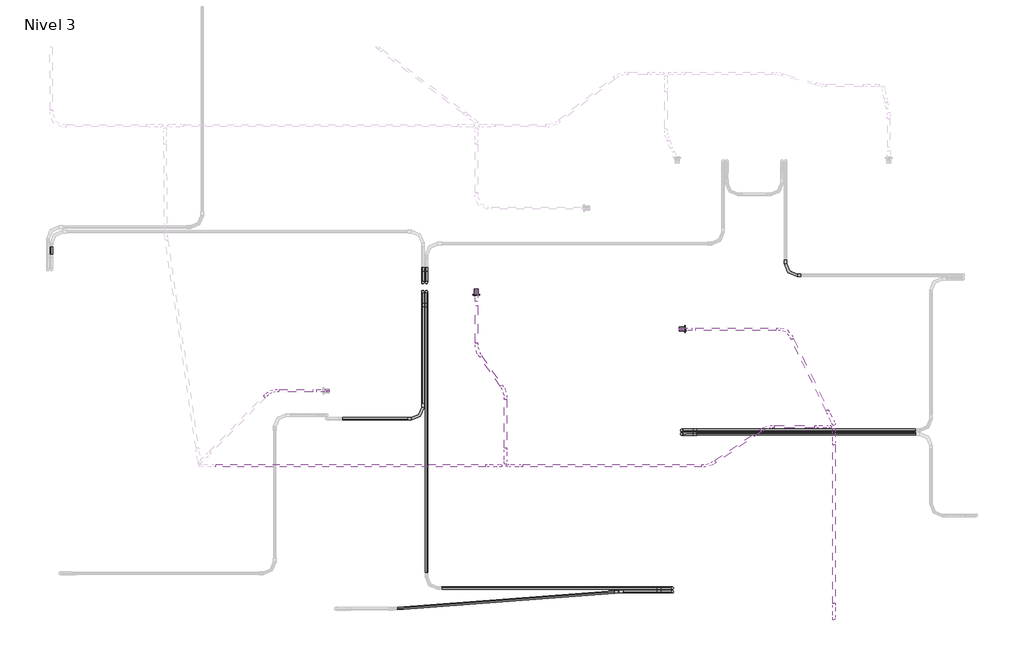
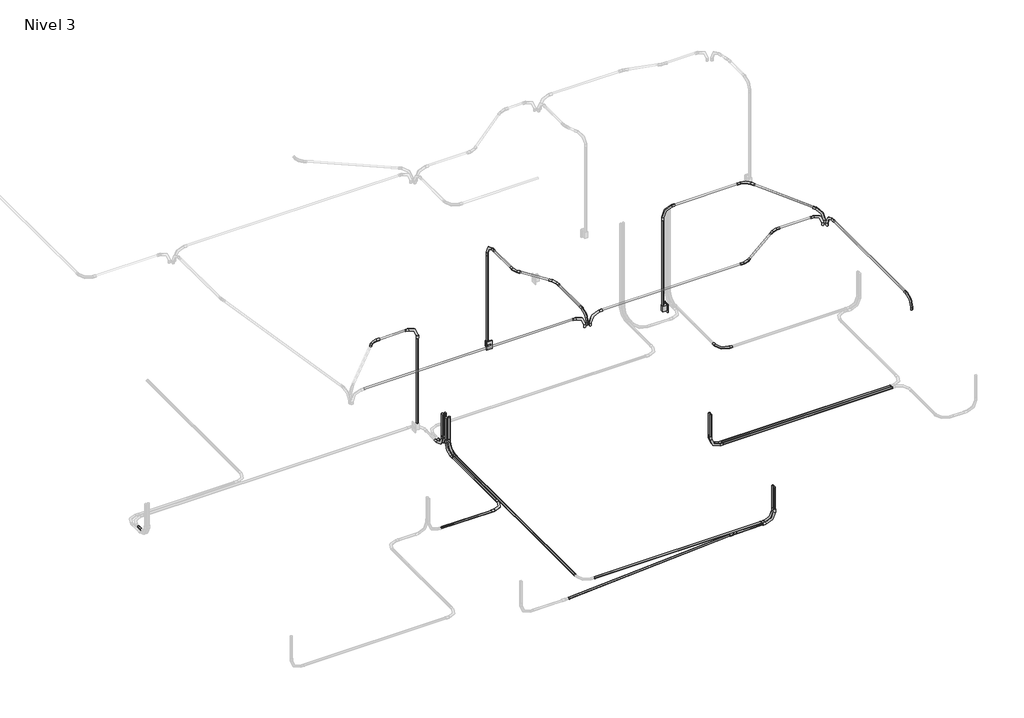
# One storey, part 2 of 9: 31 cable carrier segments, 27 cable carrier fittings, 2 switching devices.
"""IFC4 building model written with IfcOpenShell, lengths in millimetres."""

from ifc_helpers import new_model, si_unit, point, frame, frame_2d, origin, place, context, project, spatial, circle_curve, trimmed, segment, composite_curve, outline, extrude, transform, mapped, element, save
from components import m_codo_de_tubo_extremo_liso_pvc_9da73e12, m_codo_de_tubo_extremo_liso_pvc_e945fc89, m_codo_de_tubo_extremo_liso_pvc_102f0f41, m_codo_de_tubo_extremo_liso_pvc_6d9fa8a7, m_codo_de_tubo_extremo_liso_pvc_f58f4af8, m_codo_de_tubo_extremo_liso_pvc_1309d5ab, m_codo_de_tubo_extremo_liso_pvc_280a536f, m_codo_de_tubo_extremo_liso_pvc_f7d6bdcc, switching_device_22fed34b

model = new_model("IFC4")

# Units and contexts
model_context = context("Model", 3, world=origin())
ifc_project = project(units=[si_unit("LENGTHUNIT", "METRE", prefix="MILLI")], contexts=[model_context])

# Site, building, storey
site = spatial("IfcSite", under=ifc_project)
building = spatial("IfcBuilding", under=site)
storey = spatial("IfcBuildingStorey", under=building, Name="Nivel 3", Elevation=5450.0)

# Cable carrier fittings
placement = place(None, origin())
m_codo_de_tubo_extremo_liso_pvc_shape = m_codo_de_tubo_extremo_liso_pvc_9da73e12(model_context)
element("IfcCableCarrierFitting", 1, ObjectType="M_Codo de tubo - Extremo liso - PVC : CODO POTENCIA", at=placement, inside=storey, context=model_context, shape_type="MappedRepresentation", body=[
    mapped(m_codo_de_tubo_extremo_liso_pvc_shape, transform((6305.3628882, 2344.5282763, 5380.0), x_axis=(0.0, 0.0, -1.0), y_axis=(1.0, 0.0, 0.0), z_axis=(0.0, -1.0, 0.0))),
])
element("IfcCableCarrierFitting", 2, ObjectType="M_Codo de tubo - Extremo liso - PVC : CODO POTENCIA", at=placement, inside=storey, context=model_context, shape_type="MappedRepresentation", body=[
    mapped(m_codo_de_tubo_extremo_liso_pvc_shape, transform((6305.3628882, 2380.5919159, 5380.0), x_axis=(0.0, 0.0, -1.0), y_axis=(1.0, 0.0, 0.0), z_axis=(0.0, -1.0, 0.0))),
])
element("IfcCableCarrierFitting", 3, ObjectType="M_Codo de tubo - Extremo liso - PVC : CODO POTENCIA", at=placement, inside=storey, context=model_context, shape_type="MappedRepresentation", body=[
    mapped(m_codo_de_tubo_extremo_liso_pvc_shape, transform((7343.1290455, 3929.8436623, 5380.0), x_axis=(0.0, -1.0, 0.0), y_axis=(1.0, 0.0, 0.0), z_axis=(0.0, 0.0, 1.0))),
])
element("IfcCableCarrierFitting", 4, ObjectType="M_Codo de tubo - Extremo liso - PVC : CODO POTENCIA", at=placement, inside=storey, context=model_context, shape_type="MappedRepresentation", body=[
    mapped(m_codo_de_tubo_extremo_liso_pvc_shape, transform((3759.3670122, 3855.3628882, 5380.0), x_axis=(0.0, 0.0, -1.0), y_axis=(0.0, 1.0, 0.0), z_axis=(1.0, 0.0, 0.0))),
])
element("IfcCableCarrierFitting", 5, ObjectType="M_Codo de tubo - Extremo liso - PVC : CODO POTENCIA", at=placement, inside=storey, context=model_context, shape_type="MappedRepresentation", body=[
    mapped(m_codo_de_tubo_extremo_liso_pvc_shape, transform((3723.3033726, 3855.3628882, 5380.0), x_axis=(0.0, 0.0, -1.0), y_axis=(0.0, 1.0, 0.0), z_axis=(1.0, 0.0, 0.0))),
])
element("IfcCableCarrierFitting", 6, ObjectType="M_Codo de tubo - Extremo liso - PVC : CODO POTENCIA", at=placement, inside=storey, context=model_context, shape_type="MappedRepresentation", body=[
    mapped(m_codo_de_tubo_extremo_liso_pvc_shape, transform((3759.7333421, 3764.6371118, 5380.0), x_axis=(0.0, 0.0, -1.0), y_axis=(0.0, -1.0, 0.0), z_axis=(-1.0, 0.0, 0.0))),
])
element("IfcCableCarrierFitting", 7, ObjectType="M_Codo de tubo - Extremo liso - PVC : CODO POTENCIA", at=placement, inside=storey, context=model_context, shape_type="MappedRepresentation", body=[
    mapped(m_codo_de_tubo_extremo_liso_pvc_shape, transform((3723.6697024, 3764.6371118, 5380.0), x_axis=(0.0, 0.0, -1.0), y_axis=(0.0, -1.0, 0.0), z_axis=(-1.0, 0.0, 0.0))),
])
element("IfcCableCarrierFitting", 8, ObjectType="M_Codo de tubo - Extremo liso - PVC : CODO POTENCIA", at=placement, inside=storey, context=model_context, shape_type="MappedRepresentation", body=[
    mapped(m_codo_de_tubo_extremo_liso_pvc_shape, transform((6214.6371118, 769.0018593, 5380.0), x_axis=(0.0, 0.0, -1.0), y_axis=(-1.0, 0.0, 0.0), z_axis=(0.0, 1.0, 0.0))),
])
element("IfcCableCarrierFitting", 9, ObjectType="M_Codo de tubo - Extremo liso - PVC : CODO POTENCIA", at=placement, inside=storey, context=model_context, shape_type="MappedRepresentation", body=[
    mapped(m_codo_de_tubo_extremo_liso_pvc_shape, transform((6214.6371118, 805.065499, 5380.0), x_axis=(0.0, 0.0, -1.0), y_axis=(-1.0, 0.0, 0.0), z_axis=(0.0, 1.0, 0.0))),
])
element("IfcCableCarrierFitting", 10, ObjectType="M_Codo de tubo - Extremo liso - PVC : CODO POTENCIA", at=placement, inside=storey, context=model_context, shape_type="MappedRepresentation", body=[
    mapped(m_codo_de_tubo_extremo_liso_pvc_shape, transform((3723.6697024, 2496.1320383, 5380.0), x_axis=(1.0, 0.0, 0.0), y_axis=(0.0, 1.0, 0.0), z_axis=(0.0, 0.0, 1.0))),
])
m_codo_de_tubo_extremo_liso_pvc_2_shape = m_codo_de_tubo_extremo_liso_pvc_e945fc89(model_context)
element("IfcCableCarrierFitting", 11, ObjectType="M_Codo de tubo - Extremo liso - PVC : CODO POTENCIA", at=placement, inside=storey, context=model_context, shape_type="MappedRepresentation", body=[
    mapped(m_codo_de_tubo_extremo_liso_pvc_2_shape, transform((5679.6371118, 769.0018593, 5380.0), x_axis=(-1.0, 0.0, 0.0), y_axis=(0.0, -1.0, 0.0), z_axis=(0.0, 0.0, 1.0))),
])
element("IfcCableCarrierFitting", 12, ObjectType="M_Codo de tubo - Extremo liso - PVC : CODO ILUMINACION", at=placement, inside=storey, context=model_context, shape_type="MappedRepresentation", body=[
    mapped(m_codo_de_tubo_extremo_liso_pvc_shape, transform((4568.8526659, 2026.1291573, 8000.0), x_axis=(-1.0, 0.0, 0.0), y_axis=(0.0, 0.0, -1.0), z_axis=(0.0, -1.0, 0.0))),
])
element("IfcCableCarrierFitting", 13, ObjectType="M_Codo de tubo - Extremo liso - PVC : CODO ILUMINACION", at=placement, inside=storey, context=model_context, shape_type="MappedRepresentation", body=[
    mapped(m_codo_de_tubo_extremo_liso_pvc_shape, transform((7824.8834206, 2385.5078358, 8000.0), x_axis=(0.0, 1.0, 0.0), y_axis=(0.0, 0.0, -1.0), z_axis=(-1.0, 0.0, 0.0))),
])
element("IfcCableCarrierFitting", 14, ObjectType="M_Codo de tubo - Extremo liso - PVC : CODO ILUMINACION", at=placement, inside=storey, context=model_context, shape_type="MappedRepresentation", body=[
    mapped(m_codo_de_tubo_extremo_liso_pvc_shape, transform((7824.7093209, 2441.4349493, 8000.0), x_axis=(0.4383711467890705, -0.8987940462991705, 0.0), y_axis=(0.0, 0.0, -1.0000000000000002), z_axis=(0.8987940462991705, 0.4383711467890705, 0.0))),
])
element("IfcCableCarrierFitting", 15, ObjectType="M_Codo de tubo - Extremo liso - PVC : CODO ILUMINACION", at=placement, inside=storey, context=model_context, shape_type="MappedRepresentation", body=[
    mapped(m_codo_de_tubo_extremo_liso_pvc_shape, transform((7824.8834206, 498.0975256, 8000.0), x_axis=(0.0, -1.0, 0.0), y_axis=(0.0, 0.0, -1.0), z_axis=(1.0, 0.0, 0.0))),
])
element("IfcCableCarrierFitting", 16, ObjectType="M_Codo de tubo - Extremo liso - PVC : CODO ILUMINACION", at=placement, inside=storey, context=model_context, shape_type="MappedRepresentation", body=[
    mapped(m_codo_de_tubo_extremo_liso_pvc_shape, transform((6291.8611243, 3390.4963891, 8000.0), x_axis=(0.0, 0.0, 1.0), y_axis=(1.0, 0.0, 0.0), z_axis=(0.0, 1.0, 0.0))),
])
element("IfcCableCarrierFitting", 17, ObjectType="M_Codo de tubo - Extremo liso - PVC : CODO ILUMINACION", at=placement, inside=storey, context=model_context, shape_type="MappedRepresentation", body=[
    mapped(m_codo_de_tubo_extremo_liso_pvc_shape, transform((2778.1388757, 2774.1263967, 8000.0), x_axis=(0.0, 0.0, 1.0), y_axis=(-1.0, 0.0, 0.0), z_axis=(0.0, -1.0, 0.0))),
])
element("IfcCableCarrierFitting", 18, ObjectType="M_Codo de tubo - Extremo liso - PVC : CODO ILUMINACION", at=placement, inside=storey, context=model_context, shape_type="MappedRepresentation", body=[
    mapped(m_codo_de_tubo_extremo_liso_pvc_shape, transform((4547.4329765, 2051.7188091, 8000.0), x_axis=(-0.0017355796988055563, -0.9999984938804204, 0.0), y_axis=(0.0, 0.0, -1.0), z_axis=(0.9999984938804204, -0.0017355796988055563, 0.0))),
])
element("IfcCableCarrierFitting", 19, ObjectType="M_Codo de tubo - Extremo liso - PVC : CODO ILUMINACION", at=placement, inside=storey, context=model_context, shape_type="MappedRepresentation", body=[
    mapped(m_codo_de_tubo_extremo_liso_pvc_shape, transform((4257.4665435, 3778.1388757, 8000.0), x_axis=(0.0, 0.0, 1.0), y_axis=(0.0, -1.0, 0.0), z_axis=(1.0, 0.0, 0.0))),
])
m_codo_de_tubo_extremo_liso_pvc_3_shape = m_codo_de_tubo_extremo_liso_pvc_102f0f41(model_context)
element("IfcCableCarrierFitting", 20, ObjectType="M_Codo de tubo - Extremo liso - PVC : CODO ILUMINACION", at=placement, inside=storey, context=model_context, shape_type="MappedRepresentation", body=[
    mapped(m_codo_de_tubo_extremo_liso_pvc_3_shape, transform((7788.6622212, 2417.3168974, 8000.0), x_axis=(1.0, 0.0, 0.0), y_axis=(0.0, 0.0, 1.0), z_axis=(0.0, -1.0, 0.0))),
])
element("IfcCableCarrierFitting", 21, ObjectType="M_Codo de tubo - Extremo liso - PVC : CODO ILUMINACION", at=placement, inside=storey, context=model_context, shape_type="MappedRepresentation", body=[
    mapped(m_codo_de_tubo_extremo_liso_pvc_3_shape, transform((4500.822405, 2026.1291573, 8000.0), x_axis=(1.0, 0.0, 0.0), y_axis=(0.0, 0.0, 1.0), z_axis=(0.0, -1.0, 0.0))),
])
m_codo_de_tubo_extremo_liso_pvc_4_shape = m_codo_de_tubo_extremo_liso_pvc_6d9fa8a7(model_context)
element("IfcCableCarrierFitting", 22, ObjectType="M_Codo de tubo - Extremo liso - PVC : CODO ILUMINACION", at=placement, inside=storey, context=model_context, shape_type="MappedRepresentation", body=[
    mapped(m_codo_de_tubo_extremo_liso_pvc_4_shape, transform((6581.2526659, 2026.1291573, 8000.0), x_axis=(1.0, 0.0, 0.0), y_axis=(0.0, 1.0, 0.0), z_axis=(0.0, 0.0, 1.0))),
])
element("IfcCableCarrierFitting", 23, ObjectType="M_Codo de tubo - Extremo liso - PVC : CODO ILUMINACION", at=placement, inside=storey, context=model_context, shape_type="MappedRepresentation", body=[
    mapped(m_codo_de_tubo_extremo_liso_pvc_4_shape, transform((7156.2622212, 2417.3168974, 8000.0), x_axis=(-1.0, 0.0, 0.0), y_axis=(0.0, -1.0, 0.0), z_axis=(0.0, 0.0, 1.0))),
])
m_codo_de_tubo_extremo_liso_pvc_5_shape = m_codo_de_tubo_extremo_liso_pvc_f58f4af8(model_context)
element("IfcCableCarrierFitting", 24, ObjectType="M_Codo de tubo - Extremo liso - PVC : CODO ILUMINACION", at=placement, inside=storey, context=model_context, shape_type="MappedRepresentation", body=[
    mapped(m_codo_de_tubo_extremo_liso_pvc_5_shape, transform((7361.8211281, 3390.4963891, 8000.0), x_axis=(-0.4383711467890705, 0.8987940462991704, 0.0), y_axis=(-0.8987940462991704, -0.4383711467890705, 0.0), z_axis=(0.0, 0.0, 1.0))),
])
m_codo_de_tubo_extremo_liso_pvc_6_shape = m_codo_de_tubo_extremo_liso_pvc_1309d5ab(model_context)
element("IfcCableCarrierFitting", 25, ObjectType="M_Codo de tubo - Extremo liso - PVC : CODO ILUMINACION", at=placement, inside=storey, context=model_context, shape_type="MappedRepresentation", body=[
    mapped(m_codo_de_tubo_extremo_liso_pvc_6_shape, transform((2203.0130764, 2774.1263967, 8000.0), x_axis=(-1.0, 0.0, 0.0), y_axis=(0.0, -1.0, 0.0), z_axis=(0.0, 0.0, 1.0))),
])
m_codo_de_tubo_extremo_liso_pvc_7_shape = m_codo_de_tubo_extremo_liso_pvc_280a536f(model_context)
element("IfcCableCarrierFitting", 26, ObjectType="M_Codo de tubo - Extremo liso - PVC : CODO ILUMINACION", at=placement, inside=storey, context=model_context, shape_type="MappedRepresentation", body=[
    mapped(m_codo_de_tubo_extremo_liso_pvc_7_shape, transform((4257.4665435, 3178.1388757, 8000.0), x_axis=(0.0, -1.0, 0.0), y_axis=(1.0, 0.0, 0.0), z_axis=(0.0, 0.0, 1.0))),
])
m_codo_de_tubo_extremo_liso_pvc_8_shape = m_codo_de_tubo_extremo_liso_pvc_f7d6bdcc(model_context)
element("IfcCableCarrierFitting", 27, ObjectType="M_Codo de tubo - Extremo liso - PVC : CODO ILUMINACION", at=placement, inside=storey, context=model_context, shape_type="MappedRepresentation", body=[
    mapped(m_codo_de_tubo_extremo_liso_pvc_8_shape, transform((4548.6694035, 2764.1177362, 8000.0), x_axis=(0.0017355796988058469, 0.9999984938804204, 0.0), y_axis=(-0.9999984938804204, 0.0017355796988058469, 0.0), z_axis=(0.0, 0.0, 1.0))),
])

# Cable carrier segments
element("IfcCableCarrierSegment", 28, ObjectType="PVC-SEL, POTENCIA", at=placement, inside=storey, context=model_context, shape_type="SweptSolid", body=[
    extrude(outline(composite_curve([segment(trimmed(circle_curve(frame_2d((2344.5282763, 5380.0)), 11.71), [point((2332.8182763, 5380.0))], [point((2344.5282763, 5391.71))], False, "CARTESIAN"), True, "CONTINUOUS"), segment(trimmed(circle_curve(frame_2d((2344.5282763, 5380.0)), 11.71), [point((2344.5282763, 5391.71))], [point((2356.2382763, 5380.0))], False, "CARTESIAN"), True, "CONTINUOUS"), segment(trimmed(circle_curve(frame_2d((2344.5282763, 5380.0)), 11.71), [point((2356.2382763, 5380.0))], [point((2344.5282763, 5368.29))], False, "CARTESIAN"), True, "CONTINUOUS"), segment(trimmed(circle_curve(frame_2d((2344.5282763, 5380.0)), 11.71), [point((2344.5282763, 5368.29))], [point((2332.8182763, 5380.0))], False, "CARTESIAN"), True, "CONTINUOUS")], self_intersect=False)), frame((6457.7628882, 0.0, 0.0), z_axis=(1.0, 0.0, 0.0), x_axis=(0.0, 1.0, 0.0)), (0.0, 0.0, 1.0), 2184.4742236),
])
element("IfcCableCarrierSegment", 29, ObjectType="PVC-SEL, POTENCIA", at=placement, inside=storey, context=model_context, shape_type="SweptSolid", body=[
    extrude(outline(composite_curve([segment(trimmed(circle_curve(frame_2d((6305.3628882, 2344.5282763)), 11.71), [point((6317.0728882, 2344.5282763))], [point((6305.3628882, 2332.8182763))], False, "CARTESIAN"), True, "CONTINUOUS"), segment(trimmed(circle_curve(frame_2d((6305.3628882, 2344.5282763)), 11.71), [point((6305.3628882, 2332.8182763))], [point((6293.6528882, 2344.5282763))], False, "CARTESIAN"), True, "CONTINUOUS"), segment(trimmed(circle_curve(frame_2d((6305.3628882, 2344.5282763)), 11.71), [point((6293.6528882, 2344.5282763))], [point((6305.3628882, 2356.2382763))], False, "CARTESIAN"), True, "CONTINUOUS"), segment(trimmed(circle_curve(frame_2d((6305.3628882, 2344.5282763)), 11.71), [point((6305.3628882, 2356.2382763))], [point((6317.0728882, 2344.5282763))], False, "CARTESIAN"), True, "CONTINUOUS")], self_intersect=False)), frame((0.0, 0.0, 5532.4), z_axis=(0.0, 0.0, 1.0), x_axis=(1.0, 0.0, 0.0)), (0.0, 0.0, 1.0), 297.3020537),
])
element("IfcCableCarrierSegment", 30, ObjectType="PVC-SEL, POTENCIA", at=placement, inside=storey, context=model_context, shape_type="SweptSolid", body=[
    extrude(outline(composite_curve([segment(trimmed(circle_curve(frame_2d((2380.5919159, 5380.0)), 11.71), [point((2392.3019159, 5380.0))], [point((2380.5919159, 5368.29))], False, "CARTESIAN"), True, "CONTINUOUS"), segment(trimmed(circle_curve(frame_2d((2380.5919159, 5380.0)), 11.71), [point((2380.5919159, 5368.29))], [point((2368.8819159, 5380.0))], False, "CARTESIAN"), True, "CONTINUOUS"), segment(trimmed(circle_curve(frame_2d((2380.5919159, 5380.0)), 11.71), [point((2368.8819159, 5380.0))], [point((2380.5919159, 5391.71))], False, "CARTESIAN"), True, "CONTINUOUS"), segment(trimmed(circle_curve(frame_2d((2380.5919159, 5380.0)), 11.71), [point((2380.5919159, 5391.71))], [point((2392.3019159, 5380.0))], False, "CARTESIAN"), True, "CONTINUOUS")], self_intersect=False)), frame((6457.7628882, 0.0, 0.0), z_axis=(1.0, 0.0, 0.0), x_axis=(0.0, 1.0, 0.0)), (0.0, 0.0, 1.0), 2184.4742236),
])
element("IfcCableCarrierSegment", 31, ObjectType="PVC-SEL, POTENCIA", at=placement, inside=storey, context=model_context, shape_type="SweptSolid", body=[
    extrude(outline(composite_curve([segment(trimmed(circle_curve(frame_2d((6305.3628882, 2380.5919159)), 11.71), [point((6317.0728882, 2380.5919159))], [point((6305.3628882, 2368.8819159))], False, "CARTESIAN"), True, "CONTINUOUS"), segment(trimmed(circle_curve(frame_2d((6305.3628882, 2380.5919159)), 11.71), [point((6305.3628882, 2368.8819159))], [point((6293.6528882, 2380.5919159))], False, "CARTESIAN"), True, "CONTINUOUS"), segment(trimmed(circle_curve(frame_2d((6305.3628882, 2380.5919159)), 11.71), [point((6293.6528882, 2380.5919159))], [point((6305.3628882, 2392.3019159))], False, "CARTESIAN"), True, "CONTINUOUS"), segment(trimmed(circle_curve(frame_2d((6305.3628882, 2380.5919159)), 11.71), [point((6305.3628882, 2392.3019159))], [point((6317.0728882, 2380.5919159))], False, "CARTESIAN"), True, "CONTINUOUS")], self_intersect=False)), frame((0.0, 0.0, 5532.4), z_axis=(0.0, 0.0, 1.0), x_axis=(1.0, 0.0, 0.0)), (0.0, 0.0, 1.0), 297.3020537),
])
element("IfcCableCarrierSegment", 32, ObjectType="PVC-SEL, POTENCIA", at=placement, inside=storey, context=model_context, shape_type="SweptSolid", body=[
    extrude(outline(composite_curve([segment(trimmed(circle_curve(frame_2d((5380.0, 17.0761068)), 11.71), [point((5380.0, 28.7861068))], [point((5391.71, 17.0761068))], False, "CARTESIAN"), True, "CONTINUOUS"), segment(trimmed(circle_curve(frame_2d((5380.0, 17.0761068)), 11.71), [point((5391.71, 17.0761068))], [point((5380.0, 5.3661068))], False, "CARTESIAN"), True, "CONTINUOUS"), segment(trimmed(circle_curve(frame_2d((5380.0, 17.0761068)), 11.71), [point((5380.0, 5.3661068))], [point((5368.29, 17.0761068))], False, "CARTESIAN"), True, "CONTINUOUS"), segment(trimmed(circle_curve(frame_2d((5380.0, 17.0761068)), 11.71), [point((5368.29, 17.0761068))], [point((5380.0, 28.7861068))], False, "CARTESIAN"), True, "CONTINUOUS")], self_intersect=False)), frame((0.0, 4137.7628882, 0.0), z_axis=(0.0, 1.0, 0.0), x_axis=(0.0, 0.0, 1.0)), (0.0, 0.0, 1.0), 75.2),
])
element("IfcCableCarrierSegment", 33, ObjectType="PVC-SEL, POTENCIA", at=placement, inside=storey, context=model_context, shape_type="SweptSolid", body=[
    extrude(outline(composite_curve([segment(trimmed(circle_curve(frame_2d((3759.3670122, 3855.3628882)), 11.71), [point((3771.0770122, 3855.3628882))], [point((3759.3670122, 3843.6528882))], False, "CARTESIAN"), True, "CONTINUOUS"), segment(trimmed(circle_curve(frame_2d((3759.3670122, 3855.3628882)), 11.71), [point((3759.3670122, 3843.6528882))], [point((3747.6570122, 3855.3628882))], False, "CARTESIAN"), True, "CONTINUOUS"), segment(trimmed(circle_curve(frame_2d((3759.3670122, 3855.3628882)), 11.71), [point((3747.6570122, 3855.3628882))], [point((3759.3670122, 3867.0728882))], False, "CARTESIAN"), True, "CONTINUOUS"), segment(trimmed(circle_curve(frame_2d((3759.3670122, 3855.3628882)), 11.71), [point((3759.3670122, 3867.0728882))], [point((3771.0770122, 3855.3628882))], False, "CARTESIAN"), True, "CONTINUOUS")], self_intersect=False)), frame((0.0, 0.0, 5532.4), z_axis=(0.0, 0.0, 1.0), x_axis=(1.0, 0.0, 0.0)), (0.0, 0.0, 1.0), 297.3020537),
])
element("IfcCableCarrierSegment", 34, ObjectType="PVC-SEL, POTENCIA", at=placement, inside=storey, context=model_context, shape_type="SweptSolid", body=[
    extrude(outline(composite_curve([segment(trimmed(circle_curve(frame_2d((3723.3033726, 3855.3628882)), 11.71), [point((3735.0133726, 3855.3628882))], [point((3723.3033726, 3843.6528882))], False, "CARTESIAN"), True, "CONTINUOUS"), segment(trimmed(circle_curve(frame_2d((3723.3033726, 3855.3628882)), 11.71), [point((3723.3033726, 3843.6528882))], [point((3711.5933726, 3855.3628882))], False, "CARTESIAN"), True, "CONTINUOUS"), segment(trimmed(circle_curve(frame_2d((3723.3033726, 3855.3628882)), 11.71), [point((3711.5933726, 3855.3628882))], [point((3723.3033726, 3867.0728882))], False, "CARTESIAN"), True, "CONTINUOUS"), segment(trimmed(circle_curve(frame_2d((3723.3033726, 3855.3628882)), 11.71), [point((3723.3033726, 3867.0728882))], [point((3735.0133726, 3855.3628882))], False, "CARTESIAN"), True, "CONTINUOUS")], self_intersect=False)), frame((0.0, 0.0, 5532.4), z_axis=(0.0, 0.0, 1.0), x_axis=(1.0, 0.0, 0.0)), (0.0, 0.0, 1.0), 297.3020537),
])
element("IfcCableCarrierSegment", 35, ObjectType="PVC-SEL, POTENCIA", at=placement, inside=storey, context=model_context, shape_type="SweptSolid", body=[
    extrude(outline(composite_curve([segment(trimmed(circle_curve(frame_2d((5380.0, 3759.7333421)), 11.71), [point((5380.0, 3748.0233421))], [point((5368.29, 3759.7333421))], False, "CARTESIAN"), True, "CONTINUOUS"), segment(trimmed(circle_curve(frame_2d((5380.0, 3759.7333421)), 11.71), [point((5368.29, 3759.7333421))], [point((5380.0, 3771.4433421))], False, "CARTESIAN"), True, "CONTINUOUS"), segment(trimmed(circle_curve(frame_2d((5380.0, 3759.7333421)), 11.71), [point((5380.0, 3771.4433421))], [point((5391.71, 3759.7333421))], False, "CARTESIAN"), True, "CONTINUOUS"), segment(trimmed(circle_curve(frame_2d((5380.0, 3759.7333421)), 11.71), [point((5391.71, 3759.7333421))], [point((5380.0, 3748.0233421))], False, "CARTESIAN"), True, "CONTINUOUS")], self_intersect=False)), frame((0.0, 957.465499, 0.0), z_axis=(0.0, 1.0, 0.0), x_axis=(0.0, 0.0, 1.0)), (0.0, 0.0, 1.0), 2654.7716128),
])
element("IfcCableCarrierSegment", 36, ObjectType="PVC-SEL, POTENCIA", at=placement, inside=storey, context=model_context, shape_type="SweptSolid", body=[
    extrude(outline(composite_curve([segment(trimmed(circle_curve(frame_2d((3759.7333421, 3764.6371118)), 11.71), [point((3771.4433421, 3764.6371118))], [point((3759.7333421, 3752.9271118))], False, "CARTESIAN"), True, "CONTINUOUS"), segment(trimmed(circle_curve(frame_2d((3759.7333421, 3764.6371118)), 11.71), [point((3759.7333421, 3752.9271118))], [point((3748.0233421, 3764.6371118))], False, "CARTESIAN"), True, "CONTINUOUS"), segment(trimmed(circle_curve(frame_2d((3759.7333421, 3764.6371118)), 11.71), [point((3748.0233421, 3764.6371118))], [point((3759.7333421, 3776.3471118))], False, "CARTESIAN"), True, "CONTINUOUS"), segment(trimmed(circle_curve(frame_2d((3759.7333421, 3764.6371118)), 11.71), [point((3759.7333421, 3776.3471118))], [point((3771.4433421, 3764.6371118))], False, "CARTESIAN"), True, "CONTINUOUS")], self_intersect=False)), frame((0.0, 0.0, 5532.4), z_axis=(0.0, 0.0, 1.0), x_axis=(1.0, 0.0, 0.0)), (0.0, 0.0, 1.0), 297.3020537),
])
element("IfcCableCarrierSegment", 37, ObjectType="PVC-SEL, POTENCIA", at=placement, inside=storey, context=model_context, shape_type="SweptSolid", body=[
    extrude(outline(composite_curve([segment(trimmed(circle_curve(frame_2d((5380.0, 3723.6697024)), 11.71), [point((5380.0, 3711.9597024))], [point((5368.29, 3723.6697024))], False, "CARTESIAN"), True, "CONTINUOUS"), segment(trimmed(circle_curve(frame_2d((5380.0, 3723.6697024)), 11.71), [point((5368.29, 3723.6697024))], [point((5380.0, 3735.3797024))], False, "CARTESIAN"), True, "CONTINUOUS"), segment(trimmed(circle_curve(frame_2d((5380.0, 3723.6697024)), 11.71), [point((5380.0, 3735.3797024))], [point((5391.71, 3723.6697024))], False, "CARTESIAN"), True, "CONTINUOUS"), segment(trimmed(circle_curve(frame_2d((5380.0, 3723.6697024)), 11.71), [point((5391.71, 3723.6697024))], [point((5380.0, 3711.9597024))], False, "CARTESIAN"), True, "CONTINUOUS")], self_intersect=False)), frame((0.0, 2648.5320383, 0.0), z_axis=(0.0, 1.0, 0.0), x_axis=(0.0, 0.0, 1.0)), (0.0, 0.0, 1.0), 963.7050735),
])
element("IfcCableCarrierSegment", 38, ObjectType="PVC-SEL, POTENCIA", at=placement, inside=storey, context=model_context, shape_type="SweptSolid", body=[
    extrude(outline(composite_curve([segment(trimmed(circle_curve(frame_2d((3723.6697024, 3764.6371118)), 11.71), [point((3735.3797024, 3764.6371118))], [point((3723.6697024, 3752.9271118))], False, "CARTESIAN"), True, "CONTINUOUS"), segment(trimmed(circle_curve(frame_2d((3723.6697024, 3764.6371118)), 11.71), [point((3723.6697024, 3752.9271118))], [point((3711.9597024, 3764.6371118))], False, "CARTESIAN"), True, "CONTINUOUS"), segment(trimmed(circle_curve(frame_2d((3723.6697024, 3764.6371118)), 11.71), [point((3711.9597024, 3764.6371118))], [point((3723.6697024, 3776.3471118))], False, "CARTESIAN"), True, "CONTINUOUS"), segment(trimmed(circle_curve(frame_2d((3723.6697024, 3764.6371118)), 11.71), [point((3723.6697024, 3776.3471118))], [point((3735.3797024, 3764.6371118))], False, "CARTESIAN"), True, "CONTINUOUS")], self_intersect=False)), frame((0.0, 0.0, 5532.4), z_axis=(0.0, 0.0, 1.0), x_axis=(1.0, 0.0, 0.0)), (0.0, 0.0, 1.0), 297.3020537),
])
element("IfcCableCarrierSegment", 39, ObjectType="PVC-SEL, POTENCIA", at=placement, inside=storey, context=model_context, shape_type="SweptSolid", body=[
    extrude(outline(composite_curve([segment(trimmed(circle_curve(frame_2d((769.0018593, 5380.0)), 11.71), [point((780.7118593, 5380.0))], [point((769.0018593, 5368.29))], False, "CARTESIAN"), True, "CONTINUOUS"), segment(trimmed(circle_curve(frame_2d((769.0018593, 5380.0)), 11.71), [point((769.0018593, 5368.29))], [point((757.2918593, 5380.0))], False, "CARTESIAN"), True, "CONTINUOUS"), segment(trimmed(circle_curve(frame_2d((769.0018593, 5380.0)), 11.71), [point((757.2918593, 5380.0))], [point((769.0018593, 5391.71))], False, "CARTESIAN"), True, "CONTINUOUS"), segment(trimmed(circle_curve(frame_2d((769.0018593, 5380.0)), 11.71), [point((769.0018593, 5391.71))], [point((780.7118593, 5380.0))], False, "CARTESIAN"), True, "CONTINUOUS")], self_intersect=False)), frame((5722.0516109, 0.0, 0.0), z_axis=(1.0, 0.0, 0.0), x_axis=(0.0, 1.0, 0.0)), (0.0, 0.0, 1.0), 340.1855008),
])
element("IfcCableCarrierSegment", 40, ObjectType="PVC-SEL, POTENCIA", at=placement, inside=storey, context=model_context, shape_type="SweptSolid", body=[
    extrude(outline(composite_curve([segment(trimmed(circle_curve(frame_2d((6214.6371118, 769.0018593)), 11.71), [point((6226.3471118, 769.0018593))], [point((6214.6371118, 757.2918593))], False, "CARTESIAN"), True, "CONTINUOUS"), segment(trimmed(circle_curve(frame_2d((6214.6371118, 769.0018593)), 11.71), [point((6214.6371118, 757.2918593))], [point((6202.9271118, 769.0018593))], False, "CARTESIAN"), True, "CONTINUOUS"), segment(trimmed(circle_curve(frame_2d((6214.6371118, 769.0018593)), 11.71), [point((6202.9271118, 769.0018593))], [point((6214.6371118, 780.7118593))], False, "CARTESIAN"), True, "CONTINUOUS"), segment(trimmed(circle_curve(frame_2d((6214.6371118, 769.0018593)), 11.71), [point((6214.6371118, 780.7118593))], [point((6226.3471118, 769.0018593))], False, "CARTESIAN"), True, "CONTINUOUS")], self_intersect=False)), frame((0.0, 0.0, 5532.4), z_axis=(0.0, 0.0, 1.0), x_axis=(1.0, 0.0, 0.0)), (0.0, 0.0, 1.0), 297.3020537),
])
element("IfcCableCarrierSegment", 41, ObjectType="PVC-SEL, POTENCIA", at=placement, inside=storey, context=model_context, shape_type="SweptSolid", body=[
    extrude(outline(composite_curve([segment(trimmed(circle_curve(frame_2d((805.065499, 5380.0)), 11.71), [point((793.355499, 5380.0))], [point((805.065499, 5391.71))], False, "CARTESIAN"), True, "CONTINUOUS"), segment(trimmed(circle_curve(frame_2d((805.065499, 5380.0)), 11.71), [point((805.065499, 5391.71))], [point((816.775499, 5380.0))], False, "CARTESIAN"), True, "CONTINUOUS"), segment(trimmed(circle_curve(frame_2d((805.065499, 5380.0)), 11.71), [point((816.775499, 5380.0))], [point((805.065499, 5368.29))], False, "CARTESIAN"), True, "CONTINUOUS"), segment(trimmed(circle_curve(frame_2d((805.065499, 5380.0)), 11.71), [point((805.065499, 5368.29))], [point((793.355499, 5380.0))], False, "CARTESIAN"), True, "CONTINUOUS")], self_intersect=False)), frame((3912.1333421, 0.0, 0.0), z_axis=(1.0, 0.0, 0.0), x_axis=(0.0, 1.0, 0.0)), (0.0, 0.0, 1.0), 2150.1037697),
])
element("IfcCableCarrierSegment", 42, ObjectType="PVC-SEL, POTENCIA", at=placement, inside=storey, context=model_context, shape_type="SweptSolid", body=[
    extrude(outline(composite_curve([segment(trimmed(circle_curve(frame_2d((6214.6371118, 805.065499)), 11.71), [point((6226.3471118, 805.065499))], [point((6214.6371118, 793.355499))], False, "CARTESIAN"), True, "CONTINUOUS"), segment(trimmed(circle_curve(frame_2d((6214.6371118, 805.065499)), 11.71), [point((6214.6371118, 793.355499))], [point((6202.9271118, 805.065499))], False, "CARTESIAN"), True, "CONTINUOUS"), segment(trimmed(circle_curve(frame_2d((6214.6371118, 805.065499)), 11.71), [point((6202.9271118, 805.065499))], [point((6214.6371118, 816.775499))], False, "CARTESIAN"), True, "CONTINUOUS"), segment(trimmed(circle_curve(frame_2d((6214.6371118, 805.065499)), 11.71), [point((6214.6371118, 816.775499))], [point((6226.3471118, 805.065499))], False, "CARTESIAN"), True, "CONTINUOUS")], self_intersect=False)), frame((0.0, 0.0, 5532.4), z_axis=(0.0, 0.0, 1.0), x_axis=(1.0, 0.0, 0.0)), (0.0, 0.0, 1.0), 297.3020537),
])
element("IfcCableCarrierSegment", 43, ObjectType="PVC-SEL, POTENCIA", at=placement, inside=storey, context=model_context, shape_type="SweptSolid", body=[
    extrude(outline(composite_curve([segment(trimmed(circle_curve(frame_2d((2496.1320383, 5380.0)), 11.71), [point((2507.8420383, 5380.0))], [point((2496.1320383, 5368.29))], False, "CARTESIAN"), True, "CONTINUOUS"), segment(trimmed(circle_curve(frame_2d((2496.1320383, 5380.0)), 11.71), [point((2496.1320383, 5368.29))], [point((2484.4220383, 5380.0))], False, "CARTESIAN"), True, "CONTINUOUS"), segment(trimmed(circle_curve(frame_2d((2496.1320383, 5380.0)), 11.71), [point((2484.4220383, 5380.0))], [point((2496.1320383, 5391.71))], False, "CARTESIAN"), True, "CONTINUOUS"), segment(trimmed(circle_curve(frame_2d((2496.1320383, 5380.0)), 11.71), [point((2496.1320383, 5391.71))], [point((2507.8420383, 5380.0))], False, "CARTESIAN"), True, "CONTINUOUS")], self_intersect=False)), frame((2917.0371118, 0.0, 0.0), z_axis=(1.0, 0.0, 0.0), x_axis=(0.0, 1.0, 0.0)), (0.0, 0.0, 1.0), 654.2325906),
])
element("IfcCableCarrierSegment", 44, ObjectType="PVC-SEL, POTENCIA", at=placement, inside=storey, context=model_context, shape_type="SweptSolid", body=[
    extrude(outline(composite_curve([segment(trimmed(circle_curve(frame_2d((0.0, -11.71)), 11.71), [point((-11.71, -11.71))], [point((0.0, 0.0))], False, "CARTESIAN"), True, "CONTINUOUS"), segment(trimmed(circle_curve(frame_2d((0.0, -11.71)), 11.71), [point((0.0, 0.0))], [point((11.7099999, -11.71))], False, "CARTESIAN"), True, "CONTINUOUS"), segment(trimmed(circle_curve(frame_2d((0.0, -11.71)), 11.71), [point((11.7099999, -11.71))], [point((0.0, -23.42))], False, "CARTESIAN"), True, "CONTINUOUS"), segment(trimmed(circle_curve(frame_2d((0.0, -11.71)), 11.71), [point((0.0, -23.42))], [point((-11.71, -11.71))], False, "CARTESIAN"), True, "CONTINUOUS")], self_intersect=False)), frame((3467.656691, 601.7716714, 5368.29), z_axis=(0.9971543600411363, 0.07538688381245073, 0.0), x_axis=(0.07538688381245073, -0.9971543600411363, 0.0)), (0.0, 0.0, 1.0), 2175.8783845),
])
element("IfcCableCarrierSegment", 45, ObjectType="PVC-SEL ILUMINACION", at=placement, inside=storey, context=model_context, shape_type="SweptSolid", body=[
    extrude(outline(composite_curve([segment(trimmed(circle_curve(frame_2d((2026.1291573, 8000.0)), 11.71), [point((2014.4191573, 8000.0))], [point((2026.1291573, 8011.71))], False, "CARTESIAN"), True, "CONTINUOUS"), segment(trimmed(circle_curve(frame_2d((2026.1291573, 8000.0)), 11.71), [point((2026.1291573, 8011.71))], [point((2037.8391573, 8000.0))], False, "CARTESIAN"), True, "CONTINUOUS"), segment(trimmed(circle_curve(frame_2d((2026.1291573, 8000.0)), 11.71), [point((2037.8391573, 8000.0))], [point((2026.1291573, 7988.29))], False, "CARTESIAN"), True, "CONTINUOUS"), segment(trimmed(circle_curve(frame_2d((2026.1291573, 8000.0)), 11.71), [point((2026.1291573, 7988.29))], [point((2014.4191573, 8000.0))], False, "CARTESIAN"), True, "CONTINUOUS")], self_intersect=False)), frame((4721.2526659, 0.0, 0.0), z_axis=(1.0, 0.0, 0.0), x_axis=(0.0, 1.0, 0.0)), (0.0, 0.0, 1.0), 1786.7061001),
])
element("IfcCableCarrierSegment", 46, ObjectType="PVC-SEL ILUMINACION", at=placement, inside=storey, context=model_context, shape_type="SweptSolid", body=[
    extrude(outline(composite_curve([segment(trimmed(circle_curve(frame_2d((2417.3168974, 8000.0)), 11.71), [point((2429.0268974, 8000.0))], [point((2417.3168974, 7988.29))], False, "CARTESIAN"), True, "CONTINUOUS"), segment(trimmed(circle_curve(frame_2d((2417.3168974, 8000.0)), 11.71), [point((2417.3168974, 7988.29))], [point((2405.6068974, 8000.0))], False, "CARTESIAN"), True, "CONTINUOUS"), segment(trimmed(circle_curve(frame_2d((2417.3168974, 8000.0)), 11.71), [point((2405.6068974, 8000.0))], [point((2417.3168974, 8011.71))], False, "CARTESIAN"), True, "CONTINUOUS"), segment(trimmed(circle_curve(frame_2d((2417.3168974, 8000.0)), 11.71), [point((2417.3168974, 8011.71))], [point((2429.0268974, 8000.0))], False, "CARTESIAN"), True, "CONTINUOUS")], self_intersect=False)), frame((7229.5561211, 0.0, 0.0), z_axis=(1.0, 0.0, 0.0), x_axis=(0.0, 1.0, 0.0)), (0.0, 0.0, 1.0), 406.7061001),
])
element("IfcCableCarrierSegment", 47, ObjectType="PVC-SEL ILUMINACION", at=placement, inside=storey, context=model_context, shape_type="SweptSolid", body=[
    extrude(outline(composite_curve([segment(trimmed(circle_curve(frame_2d((0.0, 11.71)), 11.71), [point((11.71, 11.71))], [point((0.0, 0.0))], False, "CARTESIAN"), True, "CONTINUOUS"), segment(trimmed(circle_curve(frame_2d((0.0, 11.71)), 11.71), [point((0.0, 0.0))], [point((-11.71, 11.71))], False, "CARTESIAN"), True, "CONTINUOUS"), segment(trimmed(circle_curve(frame_2d((0.0, 11.71)), 11.71), [point((-11.71, 11.71))], [point((0.0, 23.42))], False, "CARTESIAN"), True, "CONTINUOUS"), segment(trimmed(circle_curve(frame_2d((0.0, 11.71)), 11.71), [point((0.0, 23.42))], [point((11.71, 11.71))], False, "CARTESIAN"), True, "CONTINUOUS")], self_intersect=False)), frame((6641.852451, 2067.3561121, 8011.71), z_axis=(0.8268053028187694, 0.5624882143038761, 0.0), x_axis=(0.5624882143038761, -0.8268053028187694, 0.0)), (0.0, 0.0, 1.0), 548.8716432),
])
element("IfcCableCarrierSegment", 48, ObjectType="PVC-SEL ILUMINACION", at=placement, inside=storey, context=model_context, shape_type="SweptSolid", body=[
    extrude(outline(composite_curve([segment(trimmed(circle_curve(frame_2d((8000.0, 7824.8834206)), 11.71), [point((8000.0, 7836.5934206))], [point((8011.71, 7824.8834206))], False, "CARTESIAN"), True, "CONTINUOUS"), segment(trimmed(circle_curve(frame_2d((8000.0, 7824.8834206)), 11.71), [point((8011.71, 7824.8834206))], [point((8000.0, 7813.1734206))], False, "CARTESIAN"), True, "CONTINUOUS"), segment(trimmed(circle_curve(frame_2d((8000.0, 7824.8834206)), 11.71), [point((8000.0, 7813.1734206))], [point((7988.29, 7824.8834206))], False, "CARTESIAN"), True, "CONTINUOUS"), segment(trimmed(circle_curve(frame_2d((8000.0, 7824.8834206)), 11.71), [point((7988.29, 7824.8834206))], [point((8000.0, 7836.5934206))], False, "CARTESIAN"), True, "CONTINUOUS")], self_intersect=False)), frame((0.0, 650.4975256, 0.0), z_axis=(0.0, 1.0, 0.0), x_axis=(0.0, 0.0, 1.0)), (0.0, 0.0, 1.0), 1582.6103102),
])
element("IfcCableCarrierSegment", 49, ObjectType="PVC-SEL ILUMINACION", at=placement, inside=storey, context=model_context, shape_type="SweptSolid", body=[
    extrude(outline(composite_curve([segment(trimmed(circle_curve(frame_2d((3390.4963891, 8000.0)), 11.71), [point((3378.7863891, 8000.0))], [point((3390.4963891, 8011.71))], False, "CARTESIAN"), True, "CONTINUOUS"), segment(trimmed(circle_curve(frame_2d((3390.4963891, 8000.0)), 11.71), [point((3390.4963891, 8011.71))], [point((3402.2063891, 8000.0))], False, "CARTESIAN"), True, "CONTINUOUS"), segment(trimmed(circle_curve(frame_2d((3390.4963891, 8000.0)), 11.71), [point((3402.2063891, 8000.0))], [point((3390.4963891, 7988.29))], False, "CARTESIAN"), True, "CONTINUOUS"), segment(trimmed(circle_curve(frame_2d((3390.4963891, 8000.0)), 11.71), [point((3390.4963891, 7988.29))], [point((3378.7863891, 8000.0))], False, "CARTESIAN"), True, "CONTINUOUS")], self_intersect=False)), frame((6444.2611243, 0.0, 0.0), z_axis=(1.0, 0.0, 0.0), x_axis=(0.0, 1.0, 0.0)), (0.0, 0.0, 1.0), 808.0374368),
])
element("IfcCableCarrierSegment", 50, ObjectType="PVC-SEL ILUMINACION", at=placement, inside=storey, context=model_context, shape_type="SweptSolid", body=[
    extrude(outline(composite_curve([segment(trimmed(circle_curve(frame_2d((6291.8611243, 3390.4963891)), 11.71), [point((6280.1511243, 3390.4963891))], [point((6291.8611243, 3402.2063891))], False, "CARTESIAN"), True, "CONTINUOUS"), segment(trimmed(circle_curve(frame_2d((6291.8611243, 3390.4963891)), 11.71), [point((6291.8611243, 3402.2063891))], [point((6303.5711243, 3390.4963891))], False, "CARTESIAN"), True, "CONTINUOUS"), segment(trimmed(circle_curve(frame_2d((6291.8611243, 3390.4963891)), 11.71), [point((6303.5711243, 3390.4963891))], [point((6291.8611243, 3378.7863891))], False, "CARTESIAN"), True, "CONTINUOUS"), segment(trimmed(circle_curve(frame_2d((6291.8611243, 3390.4963891)), 11.71), [point((6291.8611243, 3378.7863891))], [point((6280.1511243, 3390.4963891))], False, "CARTESIAN"), True, "CONTINUOUS")], self_intersect=False)), frame((0.0, 0.0, 6690.2227463), z_axis=(0.0, 0.0, 1.0), x_axis=(1.0, 0.0, 0.0)), (0.0, 0.0, 1.0), 1157.3772537),
])
element("IfcCableCarrierSegment", 51, ObjectType="PVC-SEL ILUMINACION", at=placement, inside=storey, context=model_context, shape_type="SweptSolid", body=[
    extrude(outline(composite_curve([segment(trimmed(circle_curve(frame_2d((0.0, -11.71)), 11.71), [point((-11.71, -11.71))], [point((0.0, 0.0))], False, "CARTESIAN"), True, "CONTINUOUS"), segment(trimmed(circle_curve(frame_2d((0.0, -11.71)), 11.71), [point((0.0, 0.0))], [point((11.71, -11.71))], False, "CARTESIAN"), True, "CONTINUOUS"), segment(trimmed(circle_curve(frame_2d((0.0, -11.71)), 11.71), [point((11.71, -11.71))], [point((0.0, -23.42))], False, "CARTESIAN"), True, "CONTINUOUS"), segment(trimmed(circle_curve(frame_2d((0.0, -11.71)), 11.71), [point((0.0, -23.42))], [point((-11.71, -11.71))], False, "CARTESIAN"), True, "CONTINUOUS")], self_intersect=False)), frame((7757.9015581, 2578.4111619, 7988.29), z_axis=(-0.43837114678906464, 0.8987940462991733, 0.0), x_axis=(0.8987940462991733, 0.43837114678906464, 0.0)), (0.0, 0.0, 1.0), 794.0050327),
])
element("IfcCableCarrierSegment", 52, ObjectType="PVC-SEL ILUMINACION", at=placement, inside=storey, context=model_context, shape_type="SweptSolid", body=[
    extrude(outline(composite_curve([segment(trimmed(circle_curve(frame_2d((2026.1291573, 8000.0)), 11.71), [point((2037.8391573, 8000.0))], [point((2026.1291573, 7988.29))], False, "CARTESIAN"), True, "CONTINUOUS"), segment(trimmed(circle_curve(frame_2d((2026.1291573, 8000.0)), 11.71), [point((2026.1291573, 7988.29))], [point((2014.4191573, 8000.0))], False, "CARTESIAN"), True, "CONTINUOUS"), segment(trimmed(circle_curve(frame_2d((2026.1291573, 8000.0)), 11.71), [point((2014.4191573, 8000.0))], [point((2026.1291573, 8011.71))], False, "CARTESIAN"), True, "CONTINUOUS"), segment(trimmed(circle_curve(frame_2d((2026.1291573, 8000.0)), 11.71), [point((2026.1291573, 8011.71))], [point((2037.8391573, 8000.0))], False, "CARTESIAN"), True, "CONTINUOUS")], self_intersect=False)), frame((1656.9487012, 0.0, 0.0), z_axis=(1.0, 0.0, 0.0), x_axis=(0.0, 1.0, 0.0)), (0.0, 0.0, 1.0), 2691.4737038),
])
element("IfcCableCarrierSegment", 53, ObjectType="PVC-SEL ILUMINACION", at=placement, inside=storey, context=model_context, shape_type="SweptSolid", body=[
    extrude(outline(composite_curve([segment(trimmed(circle_curve(frame_2d((2774.1263967, 8000.0)), 11.71), [point((2762.4163967, 8000.0))], [point((2774.1263967, 8011.71))], False, "CARTESIAN"), True, "CONTINUOUS"), segment(trimmed(circle_curve(frame_2d((2774.1263967, 8000.0)), 11.71), [point((2774.1263967, 8011.71))], [point((2785.8363967, 8000.0))], False, "CARTESIAN"), True, "CONTINUOUS"), segment(trimmed(circle_curve(frame_2d((2774.1263967, 8000.0)), 11.71), [point((2785.8363967, 8000.0))], [point((2774.1263967, 7988.29))], False, "CARTESIAN"), True, "CONTINUOUS"), segment(trimmed(circle_curve(frame_2d((2774.1263967, 8000.0)), 11.71), [point((2774.1263967, 7988.29))], [point((2762.4163967, 8000.0))], False, "CARTESIAN"), True, "CONTINUOUS")], self_intersect=False)), frame((2288.9199561, 0.0, 0.0), z_axis=(1.0, 0.0, 0.0), x_axis=(0.0, 1.0, 0.0)), (0.0, 0.0, 1.0), 336.8189196),
])
element("IfcCableCarrierSegment", 54, ObjectType="PVC-SEL ILUMINACION", at=placement, inside=storey, context=model_context, shape_type="SweptSolid", body=[
    extrude(outline(composite_curve([segment(trimmed(circle_curve(frame_2d((2778.1388757, 2774.1263967)), 11.71), [point((2766.4288757, 2774.1263967))], [point((2778.1388757, 2785.8363967))], False, "CARTESIAN"), True, "CONTINUOUS"), segment(trimmed(circle_curve(frame_2d((2778.1388757, 2774.1263967)), 11.71), [point((2778.1388757, 2785.8363967))], [point((2789.8488757, 2774.1263967))], False, "CARTESIAN"), True, "CONTINUOUS"), segment(trimmed(circle_curve(frame_2d((2778.1388757, 2774.1263967)), 11.71), [point((2789.8488757, 2774.1263967))], [point((2778.1388757, 2762.4163967))], False, "CARTESIAN"), True, "CONTINUOUS"), segment(trimmed(circle_curve(frame_2d((2778.1388757, 2774.1263967)), 11.71), [point((2778.1388757, 2762.4163967))], [point((2766.4288757, 2774.1263967))], False, "CARTESIAN"), True, "CONTINUOUS")], self_intersect=False)), frame((0.0, 0.0, 6690.2227463), z_axis=(0.0, 0.0, 1.0), x_axis=(1.0, 0.0, 0.0)), (0.0, 0.0, 1.0), 1157.3772537),
])
element("IfcCableCarrierSegment", 55, ObjectType="PVC-SEL ILUMINACION", at=placement, inside=storey, context=model_context, shape_type="SweptSolid", body=[
    extrude(outline(composite_curve([segment(trimmed(circle_curve(frame_2d((0.0, 11.7099999)), 11.71), [point((0.0, 23.42))], [point((11.71, 11.7099999))], False, "CARTESIAN"), True, "CONTINUOUS"), segment(trimmed(circle_curve(frame_2d((0.0, 11.7099999)), 11.71), [point((11.71, 11.7099999))], [point((0.0, 0.0))], False, "CARTESIAN"), True, "CONTINUOUS"), segment(trimmed(circle_curve(frame_2d((0.0, 11.7099999)), 11.71), [point((0.0, 0.0))], [point((-11.71, 11.7099999))], False, "CARTESIAN"), True, "CONTINUOUS"), segment(trimmed(circle_curve(frame_2d((0.0, 11.7099999)), 11.71), [point((-11.71, 11.7099999))], [point((0.0, 23.42))], False, "CARTESIAN"), True, "CONTINUOUS")], self_intersect=False)), frame((4535.9874965, 2204.1389032, 8000.0), z_axis=(0.001735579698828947, 0.9999984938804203, 0.0), x_axis=(0.0, 0.0, 1.0)), (0.0, 0.0, 1.0), 485.6197495),
])
element("IfcCableCarrierSegment", 56, ObjectType="PVC-SEL ILUMINACION", at=placement, inside=storey, context=model_context, shape_type="SweptSolid", body=[
    extrude(outline(composite_curve([segment(trimmed(circle_curve(frame_2d((8000.0, 4257.4665435)), 11.71), [point((8000.0, 4245.7565435))], [point((7988.29, 4257.4665435))], False, "CARTESIAN"), True, "CONTINUOUS"), segment(trimmed(circle_curve(frame_2d((8000.0, 4257.4665435)), 11.71), [point((7988.29, 4257.4665435))], [point((8000.0, 4269.1765435))], False, "CARTESIAN"), True, "CONTINUOUS"), segment(trimmed(circle_curve(frame_2d((8000.0, 4257.4665435)), 11.71), [point((8000.0, 4269.1765435))], [point((8011.71, 4257.4665435))], False, "CARTESIAN"), True, "CONTINUOUS"), segment(trimmed(circle_curve(frame_2d((8000.0, 4257.4665435)), 11.71), [point((8011.71, 4257.4665435))], [point((8000.0, 4245.7565435))], False, "CARTESIAN"), True, "CONTINUOUS")], self_intersect=False)), frame((0.0, 3252.4099745, 0.0), z_axis=(0.0, 1.0, 0.0), x_axis=(0.0, 0.0, 1.0)), (0.0, 0.0, 1.0), 373.3289012),
])
element("IfcCableCarrierSegment", 57, ObjectType="PVC-SEL ILUMINACION", at=placement, inside=storey, context=model_context, shape_type="SweptSolid", body=[
    extrude(outline(composite_curve([segment(trimmed(circle_curve(frame_2d((4257.4665435, 3778.1388757)), 11.71), [point((4245.7565435, 3778.1388757))], [point((4257.4665435, 3789.8488757))], False, "CARTESIAN"), True, "CONTINUOUS"), segment(trimmed(circle_curve(frame_2d((4257.4665435, 3778.1388757)), 11.71), [point((4257.4665435, 3789.8488757))], [point((4269.1765435, 3778.1388757))], False, "CARTESIAN"), True, "CONTINUOUS"), segment(trimmed(circle_curve(frame_2d((4257.4665435, 3778.1388757)), 11.71), [point((4269.1765435, 3778.1388757))], [point((4257.4665435, 3766.4288757))], False, "CARTESIAN"), True, "CONTINUOUS"), segment(trimmed(circle_curve(frame_2d((4257.4665435, 3778.1388757)), 11.71), [point((4257.4665435, 3766.4288757))], [point((4245.7565435, 3778.1388757))], False, "CARTESIAN"), True, "CONTINUOUS")], self_intersect=False)), frame((0.0, 0.0, 6690.2227463), z_axis=(0.0, 0.0, 1.0), x_axis=(1.0, 0.0, 0.0)), (0.0, 0.0, 1.0), 1157.3772537),
])
element("IfcCableCarrierSegment", 58, ObjectType="PVC-SEL ILUMINACION", at=placement, inside=storey, context=model_context, shape_type="SweptSolid", body=[
    extrude(outline(composite_curve([segment(trimmed(circle_curve(frame_2d((0.0, 11.71)), 11.71), [point((11.71, 11.71))], [point((0.0, 0.0))], False, "CARTESIAN"), True, "CONTINUOUS"), segment(trimmed(circle_curve(frame_2d((0.0, 11.71)), 11.71), [point((0.0, 0.0))], [point((-11.7099999, 11.71))], False, "CARTESIAN"), True, "CONTINUOUS"), segment(trimmed(circle_curve(frame_2d((0.0, 11.71)), 11.71), [point((-11.7099999, 11.71))], [point((0.0, 23.42))], False, "CARTESIAN"), True, "CONTINUOUS"), segment(trimmed(circle_curve(frame_2d((0.0, 11.71)), 11.71), [point((0.0, 23.42))], [point((11.71, 11.71))], False, "CARTESIAN"), True, "CONTINUOUS")], self_intersect=False)), frame((4505.8783456, 2824.956433, 8011.71), z_axis=(-0.5753013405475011, 0.8179415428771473, 0.0), x_axis=(0.8179415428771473, 0.5753013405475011, 0.0)), (0.0, 0.0, 1.0), 357.523136),
])

# Switching devices
switching_device_shape = switching_device_22fed34b(model_context)
element("IfcSwitchingDevice", 59, ObjectType="Interruptor : Tridireccional", at=placement, inside=storey, context=model_context, shape_type="MappedRepresentation", body=[
    mapped(switching_device_shape, transform((6335.0, 3390.5462347, 6650.0), x_axis=(0.0, 1.0, 0.0), y_axis=(0.0, 0.0, 1.0), z_axis=(1.0, 0.0, 0.0))),
])
element("IfcSwitchingDevice", 60, ObjectType="Interruptor : Tridireccional", at=placement, inside=storey, context=model_context, shape_type="MappedRepresentation", body=[
    mapped(switching_device_shape, transform((4257.5163892, 3735.0, 6650.0), x_axis=(1.0, 0.0, 0.0), y_axis=(0.0, 0.0, 1.0), z_axis=(0.0, -1.0, 0.0))),
])

save(model, "model.ifc")
